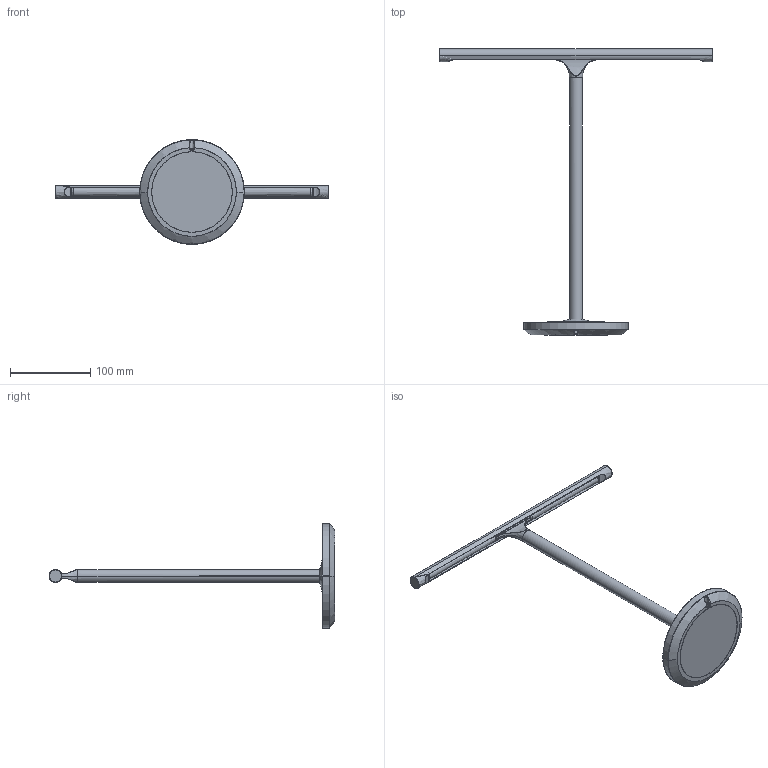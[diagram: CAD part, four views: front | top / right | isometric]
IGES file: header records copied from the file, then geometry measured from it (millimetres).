
Start section: SolidWorks IGES file using analytic representation for surfaces
Global section: file name: C:\Users\scott\Dropbox\Rakumba Industrial Design\PRODUCT\2 DEVELOPMENT\GALLERY\CAD\Gallery Lightweight CAD\Gallery - 340 Bankers Lamp.IGS; native system: SolidWorks 2017; preprocessor: SolidWorks 2017; author: scott; date: 240403.173318; units: millimetre
Bounding box: 340 x 355.5 x 130 mm (x, y, z)
Surface area: 77034.1 mm2 (no closed solid volume)
Topology: 0 solids, 0 shells, 220 faces, 3264 edges, 3260 vertices
Faces by surface type: bspline 146, revolution 74
